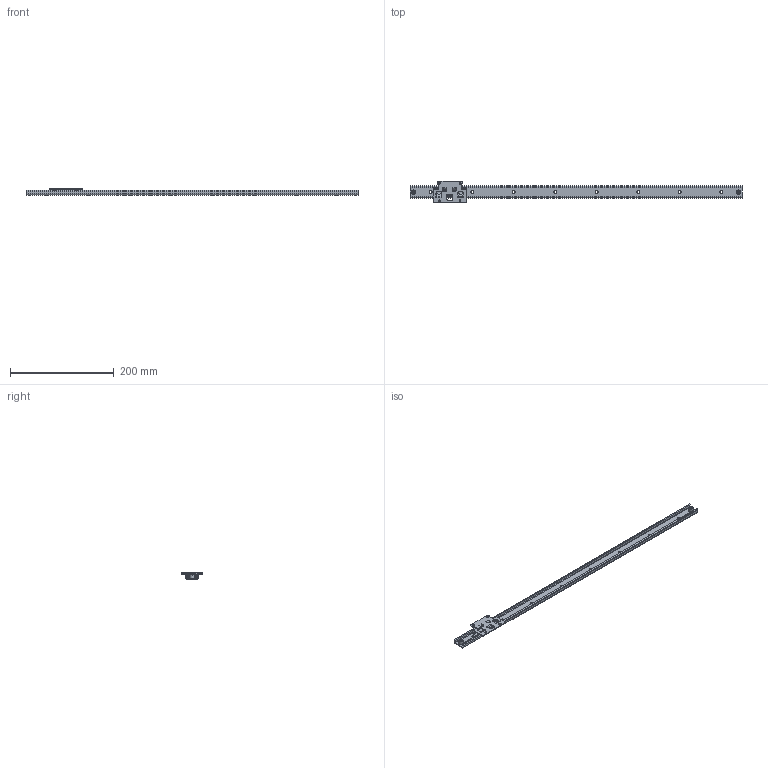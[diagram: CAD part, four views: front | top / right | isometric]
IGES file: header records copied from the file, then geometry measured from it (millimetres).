
Global section: file name:  ; native system: Kubotek KeyCreator; preprocessor: KCM Version 1.1.28; author: KeyCreator•p{ž; organization: Self; date: 20160805.054503; units: millimetre
Bounding box: 640 x 42 x 12 mm (x, y, z)
Surface area: 60901.3 mm2 (no closed solid volume)
Topology: 0 solids, 0 shells, 438 faces, 2040 edges, 1880 vertices
Faces by surface type: revolution 248, plane 190
